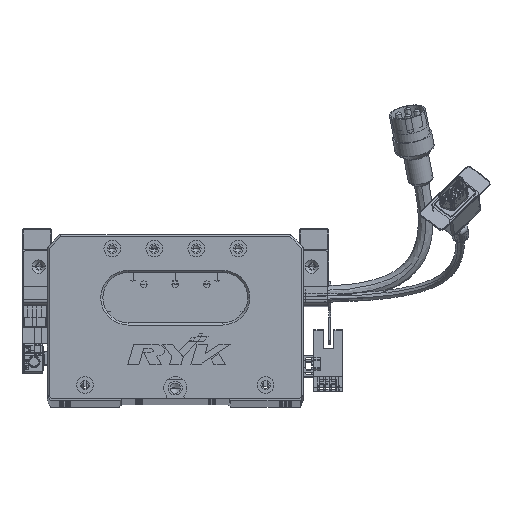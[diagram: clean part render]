
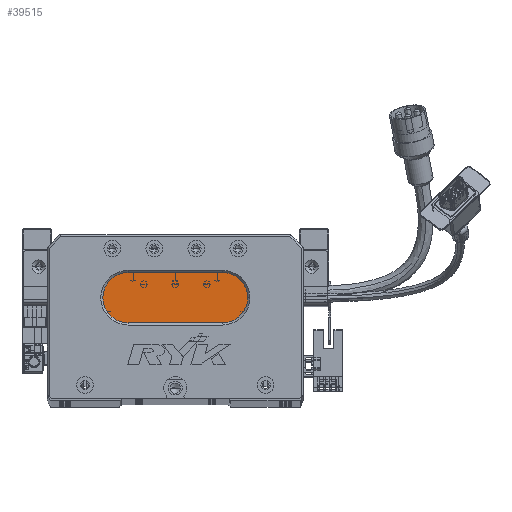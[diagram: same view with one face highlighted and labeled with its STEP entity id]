
A CAD part, top view. The second image highlights one B-rep face of the part: STEP entity #39515.
In plain terms, the highlighted planar face has unit normal (0, 0, 1) as drawn and (0, 0, -1) by its records, which use the part's own axes.
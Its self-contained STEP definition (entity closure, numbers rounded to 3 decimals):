
#3264 = CARTESIAN_POINT ( 'NONE',  ( 38.5, 60., 13. ) ) ;
#4691 = DIRECTION ( 'NONE',  ( 0., 0., -1. ) ) ;
#7663 = LINE ( 'NONE', #80580, #37572 ) ;
#9215 = DIRECTION ( 'NONE',  ( -1., 0., 0. ) ) ;
#9938 = VERTEX_POINT ( 'NONE', #51263 ) ;
#12377 = CARTESIAN_POINT ( 'NONE',  ( 83.5, 48., 13. ) ) ;
#17114 = VERTEX_POINT ( 'NONE', #77831 ) ;
#20436 = DIRECTION ( 'NONE',  ( -1., 0., 0. ) ) ;
#24602 = CARTESIAN_POINT ( 'NONE',  ( 83.5, 48., 13. ) ) ;
#25225 = AXIS2_PLACEMENT_3D ( 'NONE', #12377, #91674, #44408 ) ;
#29320 = EDGE_LOOP ( 'NONE', ( #47513, #50330, #95683, #31113, #102217 ) ) ;
#30690 = DIRECTION ( 'NONE',  ( -1., 0., 0. ) ) ;
#31113 = ORIENTED_EDGE ( 'NONE', *, *, #71841, .T. ) ;
#32482 = CIRCLE ( 'NONE', #46389, 12. ) ;
#32571 = DIRECTION ( 'NONE',  ( 1., 0., 0. ) ) ;
#37572 = VECTOR ( 'NONE', #32571, 1000. ) ;
#39515 = ADVANCED_FACE ( 'NONE', ( #100505 ), #75753, .T. ) ;
#40213 = EDGE_CURVE ( 'NONE', #93766, #9938, #80515, .T. ) ;
#44408 = DIRECTION ( 'NONE',  ( -1., 0., 0. ) ) ;
#44802 = CARTESIAN_POINT ( 'NONE',  ( 83.5, 60., 13. ) ) ;
#45553 = CIRCLE ( 'NONE', #61501, 12. ) ;
#46389 = AXIS2_PLACEMENT_3D ( 'NONE', #101978, #78353, #30690 ) ;
#47513 = ORIENTED_EDGE ( 'NONE', *, *, #50482, .T. ) ;
#50330 = ORIENTED_EDGE ( 'NONE', *, *, #40213, .T. ) ;
#50482 = EDGE_CURVE ( 'NONE', #87541, #93766, #59637, .T. ) ;
#51263 = CARTESIAN_POINT ( 'NONE',  ( 38.5, 36., 13. ) ) ;
#54950 = DIRECTION ( 'NONE',  ( -1., 0., 0. ) ) ;
#56606 = DIRECTION ( 'NONE',  ( 0., 0., -1. ) ) ;
#59637 = CIRCLE ( 'NONE', #65345, 12. ) ;
#60106 = CARTESIAN_POINT ( 'NONE',  ( 38.5, 48., 13. ) ) ;
#61501 = AXIS2_PLACEMENT_3D ( 'NONE', #60106, #4691, #20436 ) ;
#61860 = VECTOR ( 'NONE', #54950, 1000. ) ;
#65345 = AXIS2_PLACEMENT_3D ( 'NONE', #24602, #56606, #9215 ) ;
#71841 = EDGE_CURVE ( 'NONE', #17114, #87928, #45553, .T. ) ;
#75097 = EDGE_CURVE ( 'NONE', #9938, #17114, #32482, .T. ) ;
#75753 = PLANE ( 'NONE',  #25225 ) ;
#77831 = CARTESIAN_POINT ( 'NONE',  ( 26.5, 48., 13. ) ) ;
#78353 = DIRECTION ( 'NONE',  ( 0., 0., -1. ) ) ;
#80515 = LINE ( 'NONE', #102556, #61860 ) ;
#80580 = CARTESIAN_POINT ( 'NONE',  ( 83.5, 60., 13. ) ) ;
#82932 = EDGE_CURVE ( 'NONE', #87928, #87541, #7663, .T. ) ;
#87541 = VERTEX_POINT ( 'NONE', #44802 ) ;
#87928 = VERTEX_POINT ( 'NONE', #3264 ) ;
#91674 = DIRECTION ( 'NONE',  ( 0., 0., -1. ) ) ;
#93766 = VERTEX_POINT ( 'NONE', #93945 ) ;
#93945 = CARTESIAN_POINT ( 'NONE',  ( 83.5, 36., 13. ) ) ;
#95683 = ORIENTED_EDGE ( 'NONE', *, *, #75097, .T. ) ;
#100505 = FACE_OUTER_BOUND ( 'NONE', #29320, .T. ) ;
#101978 = CARTESIAN_POINT ( 'NONE',  ( 38.5, 48., 13. ) ) ;
#102217 = ORIENTED_EDGE ( 'NONE', *, *, #82932, .T. ) ;
#102556 = CARTESIAN_POINT ( 'NONE',  ( 83.5, 36., 13. ) ) ;
